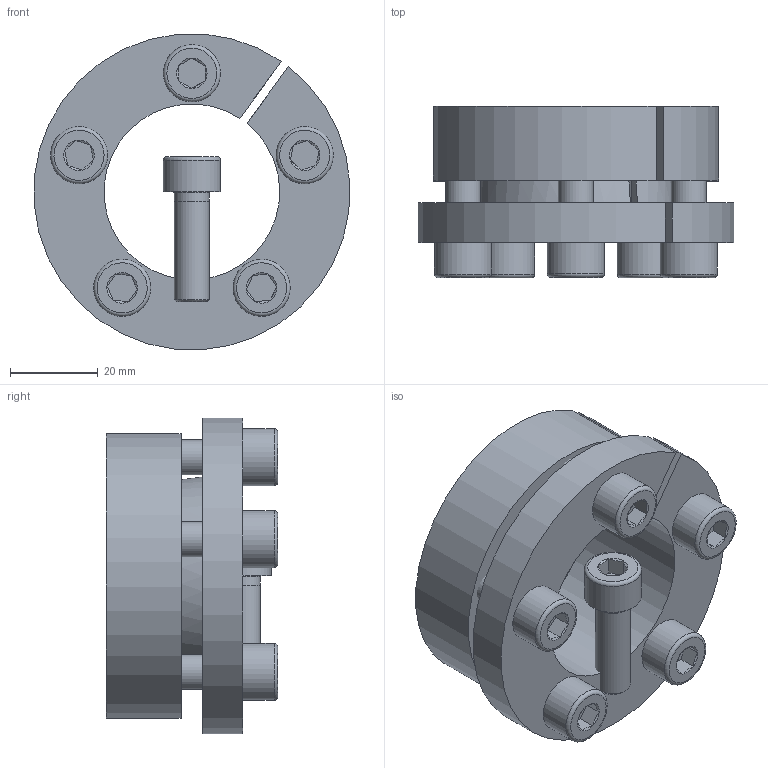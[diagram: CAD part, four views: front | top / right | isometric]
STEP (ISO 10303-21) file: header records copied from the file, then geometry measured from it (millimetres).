
FILE_DESCRIPTION( ( 'Unknown' ), '1' );
FILE_NAME( 'C:/Dokumente und Einstellungen/Sven/Desktop/15/KBS 15 - 40 x 65.stp', 'Unknown', ( 'Unknown' ), ( 'Unknown' ), 'XStep 1.0', 'Unknown', ' ' );
FILE_SCHEMA( ( 'automotive_design' ) );
Length unit declared in the file: millimetre
Products named in the file (3): Assem1; ISO EN DIN 4762 M8x25_22; KBS 15 - 40 x 65_0
Bounding box: 71.85 x 39 x 71.81 mm (x, y, z)
Volume: 123589.9 mm3; surface area: 51577.8 mm2
Topology: 8 solids, 8 shells, 194 faces, 414 edges, 250 vertices
Faces by surface type: plane 86, cylinder 50, cone 46, torus 12
Full cylindrical faces by diameter (mm): 6.647 x10, 7 x6, 8 x12, 9 x10, 13 x6
Entity records: 1576 total; most frequent: CARTESIAN_POINT 255, DIRECTION 242, ORIENTED_EDGE 180, AXIS2_PLACEMENT_3D 106, EDGE_CURVE 90, EDGE_LOOP 83, FACE_OUTER_BOUND 63, VERTEX_POINT 63
